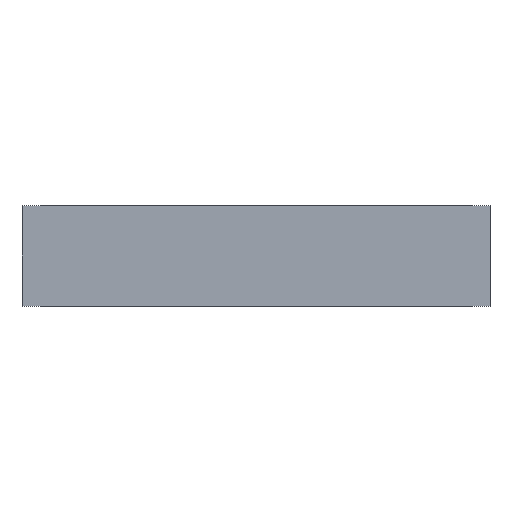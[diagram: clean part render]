
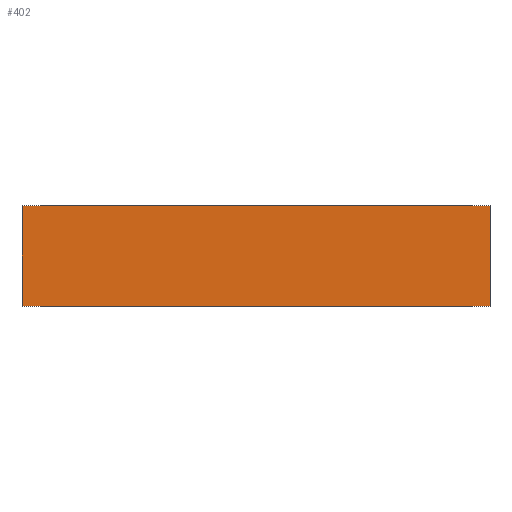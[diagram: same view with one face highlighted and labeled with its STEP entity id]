
A CAD part, front view. The second image highlights one B-rep face of the part: STEP entity #402.
In plain terms, the highlighted planar face has unit normal (0, -1, 0).
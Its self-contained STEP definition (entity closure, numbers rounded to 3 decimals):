
#37 = EDGE_LOOP ( 'NONE', ( #846, #847, #858, #842 ) ) ;
#126 = VERTEX_POINT ( 'NONE', #226 ) ;
#127 = VERTEX_POINT ( 'NONE', #227 ) ;
#130 = VERTEX_POINT ( 'NONE', #230 ) ;
#133 = VERTEX_POINT ( 'NONE', #233 ) ;
#226 = CARTESIAN_POINT ( 'NONE',  ( 151., 0., 0. ) ) ;
#227 = CARTESIAN_POINT ( 'NONE',  ( -151., 0., 0. ) ) ;
#230 = CARTESIAN_POINT ( 'NONE',  ( 151., 0., 65. ) ) ;
#233 = CARTESIAN_POINT ( 'NONE',  ( -151., 0., 65. ) ) ;
#303 = PLANE ( 'NONE',  #1218 ) ;
#306 = CARTESIAN_POINT ( 'NONE',  ( -151., 0., 65. ) ) ;
#315 = DIRECTION ( 'NONE',  ( 1., 0., 0. ) ) ;
#317 = DIRECTION ( 'NONE',  ( 0., 0., -1. ) ) ;
#318 = CARTESIAN_POINT ( 'NONE',  ( -151., 0., 0. ) ) ;
#322 = CARTESIAN_POINT ( 'NONE',  ( 151., 0., 65. ) ) ;
#402 = ADVANCED_FACE ( 'NONE', ( #671 ), #303, .F. ) ;
#510 = VECTOR ( 'NONE', #965, 1000. ) ;
#511 = LINE ( 'NONE', #964, #510 ) ;
#575 = VECTOR ( 'NONE', #921, 1000. ) ;
#576 = LINE ( 'NONE', #920, #575 ) ;
#606 = VECTOR ( 'NONE', #315, 1000. ) ;
#608 = VECTOR ( 'NONE', #317, 1000. ) ;
#613 = LINE ( 'NONE', #318, #606 ) ;
#615 = LINE ( 'NONE', #322, #608 ) ;
#671 = FACE_OUTER_BOUND ( 'NONE', #37, .T. ) ;
#842 = ORIENTED_EDGE ( 'NONE', *, *, #1150, .T. ) ;
#846 = ORIENTED_EDGE ( 'NONE', *, *, #1113, .T. ) ;
#847 = ORIENTED_EDGE ( 'NONE', *, *, #1112, .F. ) ;
#858 = ORIENTED_EDGE ( 'NONE', *, *, #1128, .F. ) ;
#885 = DIRECTION ( 'NONE',  ( -1., 0., 0. ) ) ;
#888 = DIRECTION ( 'NONE',  ( 0., 1., 0. ) ) ;
#920 = CARTESIAN_POINT ( 'NONE',  ( -151., 0., 65. ) ) ;
#921 = DIRECTION ( 'NONE',  ( 1., 0., 0. ) ) ;
#964 = CARTESIAN_POINT ( 'NONE',  ( -151., 0., 65. ) ) ;
#965 = DIRECTION ( 'NONE',  ( 0., 0., -1. ) ) ;
#1112 = EDGE_CURVE ( 'NONE', #130, #126, #615, .T. ) ;
#1113 = EDGE_CURVE ( 'NONE', #127, #126, #613, .T. ) ;
#1128 = EDGE_CURVE ( 'NONE', #133, #130, #576, .T. ) ;
#1150 = EDGE_CURVE ( 'NONE', #133, #127, #511, .T. ) ;
#1218 = AXIS2_PLACEMENT_3D ( 'NONE', #306, #888, #885 ) ;
